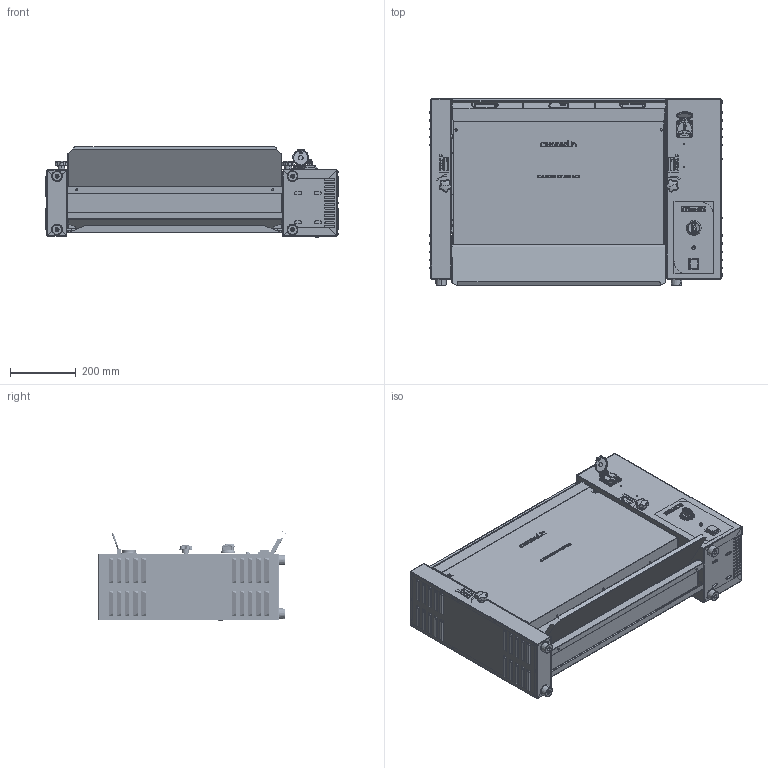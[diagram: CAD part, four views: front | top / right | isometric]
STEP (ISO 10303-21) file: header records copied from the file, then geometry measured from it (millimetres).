
FILE_DESCRIPTION (( 'STEP AP214' ), '1' );
FILE_NAME ('pres-CTV900.STEP', '2025-01-29T10:42:58', ( '' ), ( '' ), 'SwSTEP 2.0', 'SolidWorks 2025', '' );
FILE_SCHEMA (( 'AUTOMOTIVE_DESIGN' ));
Length unit declared in the file: millimetre
Products named in the file (88): Etiquette-logo-casselin-toasteur-vertical; PA10139-3 ______________-1-solid1_1900_PA10139-3 ______________-1-solid1_1; M01____ ____-1-solid1_2_3900_M01____ ____-1-solid1_2_3; PA10139_5def_PA10139_5; cross recessed pan head screws gb-68-solid1_1_3900_cross recessed pan head screws gb-68-solid1_1_3; cross recessed pan head screws gb-59-solid1_1900_cross recessed pan head screws gb-59-solid1_1; IP55________-1-solid1_2def_IP55________-1-solid1_2; cross recessed pan head screws gb-67-solid1_1_3900_cross recessed pan head screws gb-67-solid1_1_3; PA10139-3_4900_PA10139-3_4; PA10139-3_3900_PA10139-3_3; cross recessed pan head screws gb-69-solid1_1_3900_cross recessed pan head screws gb-69-solid1_1_3; PA10139 ________-2-solid1_1_1900_PA10139 ________-2-solid1_1_1; plain washers--product grade c gb-14-solid1_1_1900_plain washers--product grade c gb-14-solid1_1_1; cross recessed pan head screws gb-61-solid1_1900_cross recessed pan head screws gb-61-solid1_1; __________-1-solid1_1_2900___________-1-solid1_1_2; ________-1-solid1_1_2900_________-1-solid1_1_2; PA10139 ______-1-solid1_2_1900_PA10139 ______-1-solid1_2_1; PA10139 ______________-2-solid1_3900_PA10139 ______________-2-solid1_3; PA10139 ______________-1-solid1_1_3900_PA10139 ______________-1-solid1_1_3; PA10139-3 ________________-4-solid1_1900_PA10139-3 ________________-4-solid1_1; M01____ ________-1-solid1_1_3900_M01____ ________-1-solid1_1_3; PA10139 __________ ______-1-solid1_1900_PA10139 __________ ______-1-solid1_1; PA10139 ______________-6-solid1_1_3900_PA10139 ______________-6-solid1_1_3; plain washers--product grade c gb-13-solid1_1_2900_plain washers--product grade c gb-13-solid1_1_2; __________U____-1-solid1_1_1900___________U____-1-solid1_1_1; pres-CTV900; plain washers--product grade c gb-15-solid1_1_3900_plain washers--product grade c gb-15-solid1_1_3; PA10139 ______________-2-solid1_1_1900_PA10139 ______________-2-solid1_1_1; IP55________ -1-solid4_1def_IP55________ -1-solid4_1; PA10139 __________-2-solid1_1_3900_PA10139 __________-2-solid1_1_3; __________U____-2-solid1_1_1900___________U____-2-solid1_1_1; PA10139-3 ______-1-solid1_2900_PA10139-3 ______-1-solid1_2; PA10139 ______________-1-solid1_2900_PA10139 ______________-1-solid1_2; cross recessed pan head screws gb-71-solid1_1900_cross recessed pan head screws gb-71-solid1_1; cross recessed pan head screws gb-65-solid1_1_3900_cross recessed pan head screws gb-65-solid1_1_3; spring lock washers--normal type gb-1-solid1_1_3900_spring lock washers--normal type gb-1-solid1_1_3; IP55________ -1-solid2_1def_IP55________ -1-solid2_1; IP55________ -1-solid3_1def_IP55________ -1-solid3_1; PA10139-3 ____-1-solid1_1900_PA10139-3 ____-1-solid1_1; angle-logo-bleu-toasteur-vertical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
Assembly tree (92 placements, depth 3):
  pres-CTV900
    cross recessed pan head screws gb-60-solid1_1900_cross recessed pan head screws gb-60-solid1_1
    M01____ ____-1-solid1_1_3900_M01____ ____-1-solid1_1_3
    PA10139 ______-1-solid1_1_3900_PA10139 ______-1-solid1_1_3
    M01____ __-1-solid1_1_3900_M01____ __-1-solid1_1_3
    cross recessed pan head screws gb-59-solid1_1900_cross recessed pan head screws gb-59-solid1_1
    PA10139 ______________-1-solid1_1_3900_PA10139 ______________-1-solid1_1_3
    PA10139 ______________-2-solid1_1_1900_PA10139 ______________-2-solid1_1_1
    PA10139 ________-1-solid1_1_3900_PA10139 ________-1-solid1_1_3
    cross recessed pan head screws gb-71-solid1_1900_cross recessed pan head screws gb-71-solid1_1
    cross recessed pan head screws gb-70-solid1_1_3900_cross recessed pan head screws gb-70-solid1_1_3
    PA10139-3 ______-1-solid1_2900_PA10139-3 ______-1-solid1_2
    M01____ ________-1-solid1_1_3900_M01____ ________-1-solid1_1_3
    cross recessed pan head screws gb-65-solid1_1_3900_cross recessed pan head screws gb-65-solid1_1_3
    PA10139 ______________-6-solid1_1_3900_PA10139 ______________-6-solid1_1_3
    plain washers--product grade c gb-1-solid1_1_3900_plain washers--product grade c gb-1-solid1_1_3
    cross recessed pan head screws gb-64-solid1_1_3900_cross recessed pan head screws gb-64-solid1_1_3
    cross recessed pan head screws gb-67-solid1_1_3900_cross recessed pan head screws gb-67-solid1_1_3
    ________-1-solid1_1_2900_________-1-solid1_1_2
    plain washers--product grade c gb-14-solid1_1_1900_plain washers--product grade c gb-14-solid1_1_1
    __________U____-2-solid1_1_1900___________U____-2-solid1_1_1
    M01____ __-1-solid1_2_3900_M01____ __-1-solid1_2_3
    cross recessed pan head screws gb-62-solid1_1_3900_cross recessed pan head screws gb-62-solid1_1_3
    __________________-1-solid1_1_3900___________________-1-solid1_1_3
    PA10139-3 ________________-3-solid1_1900_PA10139-3 ________________-3-solid1_1
    PA10139-3_1900_PA10139-3_1
    __________-1-solid1_1_2900___________-1-solid1_1_2
    PA10139 ________-2-solid1_1_1900_PA10139 ________-2-solid1_1_1
    cross recessed pan head screws gb-68-solid1_1_3900_cross recessed pan head screws gb-68-solid1_1_3
    cross recessed pan head screws gb-66-solid1_1_3900_cross recessed pan head screws gb-66-solid1_1_3
    M8____ ________-1-solid1_1_4900_M8____ ________-1-solid1_1_4
    PA10139 __________-1-solid1_1_3900_PA10139 __________-1-solid1_1_3
    PA10139 __________ ______-2-solid1_1900_PA10139 __________ ______-2-solid1_1
    PA10139 ______________-1-solid1_2900_PA10139 ______________-1-solid1_2
    PA10139 __________-2-solid1_1_3900_PA10139 __________-2-solid1_1_3
    PA10139-3 ______________-1-solid1_1900_PA10139-3 ______________-1-solid1_1
    PA10139-3 ______-1-solid1_1_1900_PA10139-3 ______-1-solid1_1_1
    PA10139-3 __________-1-solid1_1900_PA10139-3 __________-1-solid1_1
    PA10139 __________ ______________-2-solid1_1900_PA10139 __________ ______________-2-solid1_1
    PA10139-3_2900_PA10139-3_2
    PA10139-3_3900_PA10139-3_3
    PA10139 ______________-2-solid1_2900_PA10139 ______________-2-solid1_2
    spring lock washers--normal type gb-1-solid1_1_3900_spring lock washers--normal type gb-1-solid1_1_3
    PA10139-3 ________________-1-solid1_1900_PA10139-3 ________________-1-solid1_1
    __________-1-solid1_2_3900___________-1-solid1_2_3
    PA10139 __________ ______-1-solid1_1900_PA10139 __________ ______-1-solid1_1
    PA10139-3 ____-1-solid1_1900_PA10139-3 ____-1-solid1_1
    PA10139 __________ ______-3-solid1_1900_PA10139 __________ ______-3-solid1_1
    plain washers--product grade c gb-16-solid1_1_3900_plain washers--product grade c gb-16-solid1_1_3
    PA10139-3 ________________-4-solid1_1900_PA10139-3 ________________-4-solid1_1
    FL08______-7-solid1_1900_FL08______-7-solid1_1
    __________U____-1-solid1_1_1900___________U____-1-solid1_1_1
    PA10139-3 ______-1-solid1_2_1900_PA10139-3 ______-1-solid1_2_1
    PA10139 ________-4-solid1_1900_PA10139 ________-4-solid1_1
    M01____ ____-1-solid1_2_3900_M01____ ____-1-solid1_2_3
    PA10139 ______________-2-solid1_3900_PA10139 ______________-2-solid1_3
    PA10139-3_4900_PA10139-3_4
    PA10139 ________-2-solid1_2900_PA10139 ________-2-solid1_2
    cross recessed pan head screws gb-61-solid1_1900_cross recessed pan head screws gb-61-solid1_1
    ______________-1-solid1_1_3900_______________-1-solid1_1_3
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Bounding box: 894.86 x 570.13 x 274.29 mm (x, y, z)
Volume: 2644612.2 mm3; surface area: 5094187.2 mm2
Topology: 133 solids, 139 shells, 6332 faces, 15732 edges, 9859 vertices
Faces by surface type: plane 3034, cylinder 2074, bspline 840, cone 232, torus 106, sphere 46
Entity records: 243480 total; most frequent: CARTESIAN_POINT 82572, ORIENTED_EDGE 30536, DIRECTION 27996, EDGE_CURVE 15268, AXIS2_PLACEMENT_3D 9656, VERTEX_POINT 9570, VECTOR 8684, LINE 8684
